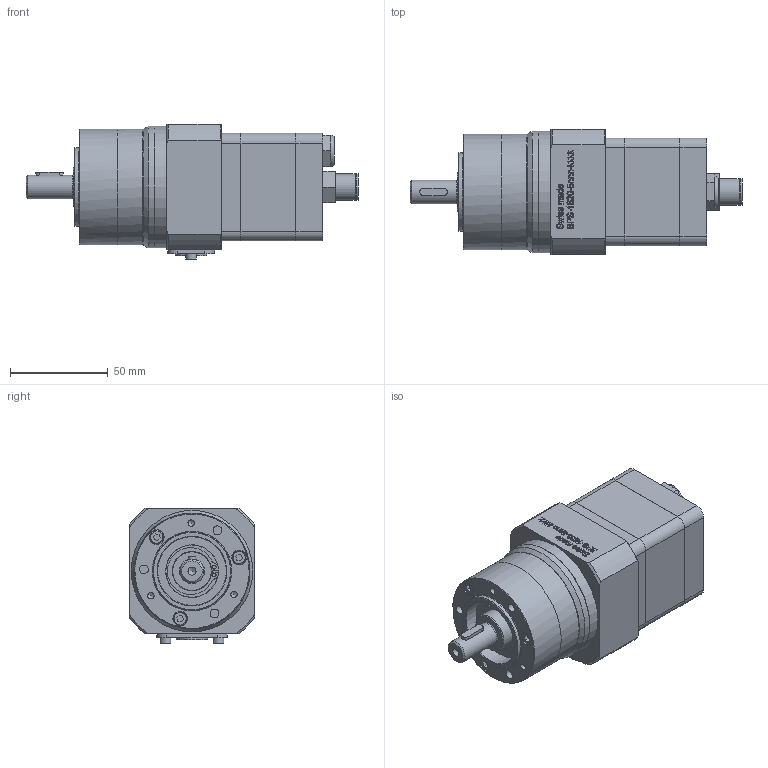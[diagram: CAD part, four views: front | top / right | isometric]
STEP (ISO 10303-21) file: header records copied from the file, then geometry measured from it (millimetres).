
FILE_DESCRIPTION(/* description */ (''),/* implementation_level */ '2;1');
FILE_NAME(/* name */ 'G:\02 CAD Dateien\02 - CAD Schrittmotoren BPS\01 - Standart Produkte\BPS 1620-23\Verkaufsunterlagen\STEP ab JULI 2017\500-16-353 Schrittmotor BPS-1620-MX.stp',/* time_stamp */ '2017-12-19T15:20:50+01:00',/* author */ ('RSc'),/* organization */ (''),/* preprocessor_version */ 'ST-DEVELOPER v16.1',/* originating_system */ 'Autodesk Inventor 2016',/* authorisation */ '');
FILE_SCHEMA (('AUTOMOTIVE_DESIGN { 1 0 10303 214 3 1 1 }'));
Length unit declared in the file: millimetre
Products named in the file (1): 500-16-353 Schrittmotor BPS-1620-MX
Bounding box: 169.4 x 64 x 69 mm (x, y, z)
Volume: 388454.9 mm3; surface area: 51483.8 mm2
Topology: 12 solids, 34 shells, 828 faces, 2071 edges, 1368 vertices
Faces by surface type: plane 424, bspline 213, cylinder 117, torus 37, cone 26, sphere 11
Full cylindrical faces by diameter (mm): 2 x2, 3 x5, 3.242 x3, 3.3 x6, 4 x3, 4.134 x1, 4.5 x6, 5.5 x4, 7 x3, 7.5 x3, 8 x9, 8.566 x4, 10.5 x1, 11 x1, 12 x1, 12.6 x1, 13.6 x2, 16 x2, 19 x1, 20 x2, 25.325 x1, 26.657 x1, 26.857 x1, 35 x1, 35.343 x1, 36.675 x1, 38.675 x1, 40 x1, 42 x1, 59 x2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
Entity records: 25926 total; most frequent: CARTESIAN_POINT 7153, ORIENTED_EDGE 3868, DIRECTION 3011, EDGE_CURVE 1910, VERTEX_POINT 1320, LINE 1101, VECTOR 1101, EDGE_LOOP 1046
